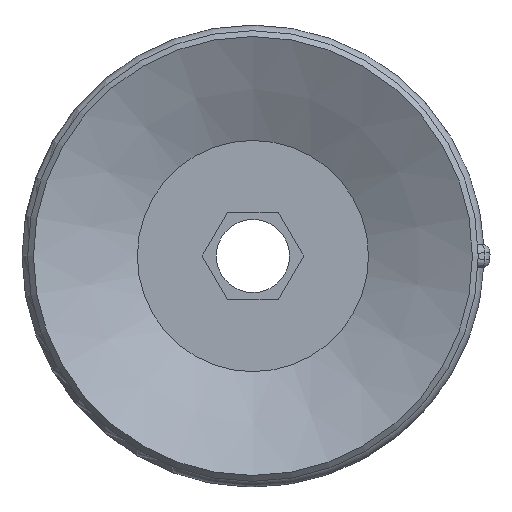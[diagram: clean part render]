
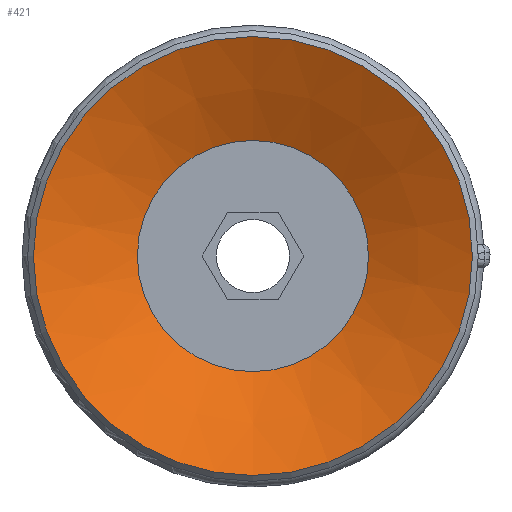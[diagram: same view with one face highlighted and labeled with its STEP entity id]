
A CAD part, front view. The second image highlights one B-rep face of the part: STEP entity #421.
In plain terms, the highlighted conical face has half-angle 64 degrees and reference radius 3.95 mm.
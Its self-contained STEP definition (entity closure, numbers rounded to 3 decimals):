
#421=ADVANCED_FACE('',(#646,#647),#648,.F.);
#646=FACE_BOUND('',#948,.T.);
#647=FACE_OUTER_BOUND('',#949,.T.);
#648=CONICAL_SURFACE('',#950,3.95,1.117);
#948=EDGE_LOOP('',(#1633));
#949=EDGE_LOOP('',(#1634));
#950=AXIS2_PLACEMENT_3D('',#1635,#1636,#1637);
#1633=ORIENTED_EDGE('',*,*,#1939,.F.);
#1634=ORIENTED_EDGE('',*,*,#1940,.T.);
#1635=CARTESIAN_POINT('',(0.0,-29.404,-47.168));
#1636=DIRECTION('',(-0.0,0.,1.0));
#1637=DIRECTION('',(0.0,-1.0,0.));
#1939=EDGE_CURVE('',#2244,#2244,#2245,.T.);
#1940=EDGE_CURVE('',#2246,#2246,#2247,.T.);
#2244=VERTEX_POINT('',#2975);
#2245=CIRCLE('',#2976,3.95);
#2246=VERTEX_POINT('',#2977);
#2247=CIRCLE('',#2978,7.5);
#2975=CARTESIAN_POINT('',(0.0,-33.354,-47.168));
#2976=AXIS2_PLACEMENT_3D('',#3296,#3297,#3298);
#2977=CARTESIAN_POINT('',(0.0,-36.904,-45.437));
#2978=AXIS2_PLACEMENT_3D('',#3299,#3300,#3301);
#3296=CARTESIAN_POINT('',(0.0,-29.404,-47.168));
#3297=DIRECTION('',(0.0,0.,1.0));
#3298=DIRECTION('',(0.0,-1.0,0.));
#3299=CARTESIAN_POINT('',(0.0,-29.404,-45.437));
#3300=DIRECTION('',(0.0,0.,1.0));
#3301=DIRECTION('',(0.0,-1.0,0.));
